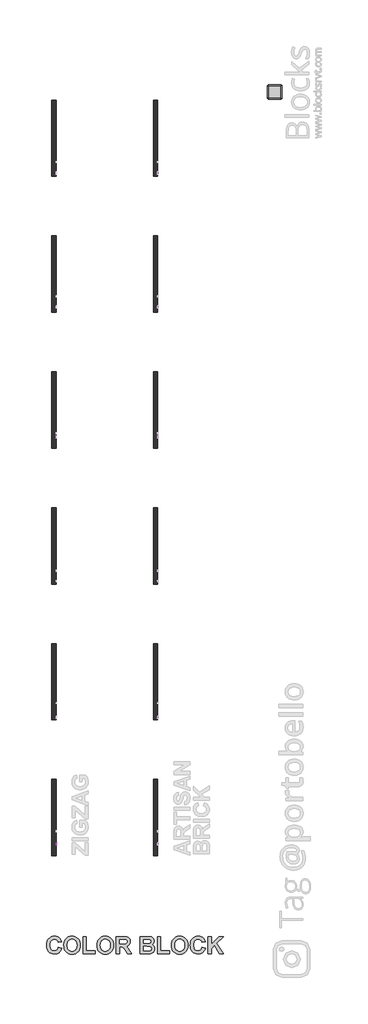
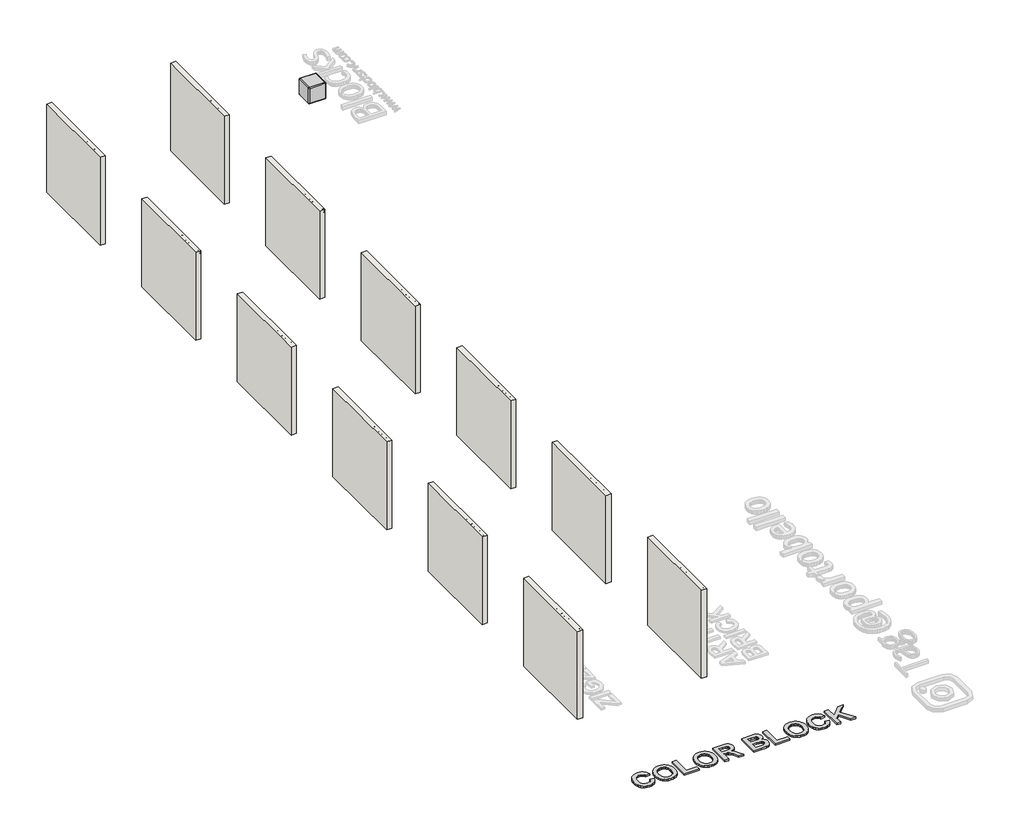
# One storey, part 1 of 9: 12 walls, 2 proxies, 1 furniture element.
"""IFC4 building model written with IfcOpenShell, lengths in millimetres."""

from ifc_helpers import new_model, si_unit, frame, origin, origin_with_axes, place, context, project, spatial, polyline, outline, extrude, transform, mapped, element, save
from components import branco_22256ad2

model = new_model("IFC4")

# Units and contexts
model_context = context("Model", 3, world=origin())
ifc_project = project(units=[si_unit("LENGTHUNIT", "METRE", prefix="MILLI")], contexts=[model_context])

# Site, building, storey
site = spatial("IfcSite", under=ifc_project)
building = spatial("IfcBuilding", under=site)
storey = spatial("IfcBuildingStorey", under=building, Name="PORTOBELLO - SHOWROOM", Elevation=0.0)

# Proxies
placement = place(None, origin())
element("IfcBuildingElementProxy", 1, Name="10mm Arial", ObjectType="10mm Arial", at=placement, inside=storey, context=model_context, shape_type="SweptSolid", body=[
    extrude(outline(polyline([(-5897.7049398, 2548.8308244), (-5857.6058023, 2649.2871345), (-5846.912699, 2649.2871345), (-5806.8135615, 2548.8308244), (-5820.0818388, 2548.8308244), (-5831.5842825, 2580.2234213), (-5872.9587442, 2580.2234213), (-5884.4366625, 2548.8308244), (-5897.7049398, 2548.8308244)]), holes=[polyline([(-5868.3479566, 2592.7804601), (-5836.1705447, 2592.7804601), (-5845.2204418, 2617.4776047), (-5852.2592506, 2636.7300958), (-5858.5132446, 2619.6358457), (-5868.3479566, 2592.7804601)])]), frame((-22384.5594677, 0.0, 0.0), z_axis=(1.0, 0.0, 0.0), x_axis=(0.0, 1.0, 0.0)), (0.0, 0.0, 1.0), 20.0),
    extrude(outline(polyline([(-5749.4484957, 2520.5774872), (-5749.4484957, 2558.8862656), (-5757.4192723, 2550.5721325), (-5768.3085794, 2547.2611945), (-5780.2463501, 2549.8762224), (-5790.4060245, 2557.7213059), (-5797.3589942, 2570.1219949), (-5799.6766508, 2586.4038388), (-5795.9978309, 2606.293992), (-5785.329253, 2619.6358457), (-5770.0008365, 2624.173057), (-5758.3267145, 2620.6536526), (-5749.4484957, 2610.0954393), (-5749.4484957, 2622.6034271), (-5736.891457, 2622.6034271), (-5736.891457, 2520.5774872), (-5749.4484957, 2520.5774872)]), holes=[polyline([(-5787.119612, 2585.7171258), (-5785.706332, 2574.3863603), (-5781.466492, 2566.2929564), (-5775.252352, 2561.4369141), (-5767.9161719, 2559.8182333), (-5760.8865601, 2561.3572063), (-5754.905412, 2565.9741254), (-5750.8127248, 2573.7364355), (-5749.4484957, 2584.7115816), (-5750.8863012, 2596.4439516), (-5755.1997176, 2604.8592522), (-5761.4506458, 2609.9268267), (-5768.7009868, 2611.6160182), (-5775.8164377, 2610.0433227), (-5781.7607976, 2605.3252361), (-5785.7799084, 2597.2778175), (-5787.119612, 2585.7171258)])]), frame((-22384.5594677, 0.0, 0.0), z_axis=(1.0, 0.0, 0.0), x_axis=(0.0, 1.0, 0.0)), (0.0, 0.0, 1.0), 20.0),
    extrude(outline(polyline([(-5670.9670034, 2548.8308244), (-5670.9670034, 2561.5104905), (-5680.8017154, 2550.8235185), (-5693.6285343, 2547.2611945), (-5705.4375464, 2549.7627921), (-5713.5800012, 2556.0413115), (-5717.3201348, 2565.2874123), (-5718.0558988, 2576.9615343), (-5718.0558988, 2622.6034271), (-5705.49886, 2622.6034271), (-5705.49886, 2582.8721717), (-5704.7385706, 2570.0698782), (-5699.7721636, 2562.5528228), (-5690.4156982, 2559.8182333), (-5679.9310614, 2562.6141365), (-5673.0026171, 2570.2292938), (-5670.9670034, 2584.2210723), (-5670.9670034, 2622.6034271), (-5658.4099647, 2622.6034271), (-5658.4099647, 2548.8308244), (-5670.9670034, 2548.8308244)])), frame((-22384.5594677, 0.0, 0.0), z_axis=(1.0, 0.0, 0.0), x_axis=(0.0, 1.0, 0.0)), (0.0, 0.0, 1.0), 20.0),
    extrude(outline(polyline([(-5594.055141, 2558.2486035), (-5606.232035, 2549.7382666), (-5619.6842533, 2547.2611945), (-5630.1780872, 2548.7511166), (-5637.9189375, 2553.2208829), (-5642.6922064, 2560.0083057), (-5644.283296, 2568.4511975), (-5641.8798003, 2578.3840113), (-5635.5644928, 2585.5944984), (-5626.7721131, 2589.7147768), (-5615.9073315, 2591.6032377), (-5594.1287174, 2595.9197198), (-5594.055141, 2598.7156229), (-5597.5132317, 2607.9862492), (-5611.3946457, 2611.6160182), (-5624.0988372, 2609.2002598), (-5630.1566274, 2600.6286093), (-5642.7136662, 2602.1982392), (-5637.2812754, 2614.4609723), (-5626.3429174, 2621.646934), (-5609.7759649, 2624.173057), (-5594.557913, 2621.9412396), (-5585.9617371, 2616.3371705), (-5582.1112389, 2607.8145709), (-5581.4981022, 2596.827162), (-5581.4981022, 2581.20444), (-5580.8604401, 2559.3890376), (-5578.3588425, 2548.8308244), (-5590.9158813, 2548.8308244), (-5594.055141, 2558.2486035)]), holes=[polyline([(-5594.055141, 2583.362681), (-5614.3131762, 2579.5121828), (-5625.1166441, 2577.4765691), (-5630.0094746, 2574.1656311), (-5631.7262573, 2569.3341142), (-5627.9861237, 2562.5405601), (-5617.0109775, 2559.8182333), (-5604.3067859, 2562.8226029), (-5596.1152801, 2570.0944037), (-5594.1287174, 2579.8064884), (-5594.055141, 2583.362681)])]), frame((-22384.5594677, 0.0, 0.0), z_axis=(1.0, 0.0, 0.0), x_axis=(0.0, 1.0, 0.0)), (0.0, 0.0, 1.0), 20.0),
    extrude(outline(polyline([(-5564.2321739, 2548.8308244), (-5564.2321739, 2622.6034271), (-5551.6751351, 2622.6034271), (-5551.6751351, 2610.4633213), (-5543.042171, 2620.4083979), (-5530.7549123, 2624.173057), (-5518.1733481, 2620.3348215), (-5511.2571666, 2609.5804045), (-5501.4592428, 2620.5248939), (-5489.086145, 2624.173057), (-5479.6469062, 2622.6555438), (-5472.6663453, 2618.1030041), (-5468.3529289, 2610.3928106), (-5466.9151234, 2599.402336), (-5466.9151234, 2548.8308244), (-5479.4721622, 2548.8308244), (-5479.4721622, 2594.0067334), (-5480.6371219, 2604.4913703), (-5484.8555021, 2609.6539809), (-5492.029201, 2611.6160182), (-5504.3777733, 2606.5882976), (-5508.0657903, 2600.0461295), (-5509.2951293, 2590.4750662), (-5509.2951293, 2548.8308244), (-5521.852168, 2548.8308244), (-5521.852168, 2595.404685), (-5524.7584358, 2607.5693163), (-5534.2865795, 2611.6160182), (-5543.5817312, 2608.9182169), (-5549.7621487, 2601.0210168), (-5551.6751351, 2586.0359568), (-5551.6751351, 2548.8308244), (-5564.2321739, 2548.8308244)])), frame((-22384.5594677, 0.0, 0.0), z_axis=(1.0, 0.0, 0.0), x_axis=(0.0, 1.0, 0.0)), (0.0, 0.0, 1.0), 20.0),
    extrude(outline(polyline([(-5400.9906699, 2558.2486035), (-5413.1675639, 2549.7382666), (-5426.6197822, 2547.2611945), (-5437.1136161, 2548.7511166), (-5444.8544665, 2553.2208829), (-5449.6277353, 2560.0083057), (-5451.218825, 2568.4511975), (-5448.8153293, 2578.3840113), (-5442.5000217, 2585.5944984), (-5433.707642, 2589.7147768), (-5422.8428604, 2591.6032377), (-5401.0642463, 2595.9197198), (-5400.9906699, 2598.7156229), (-5404.4487607, 2607.9862492), (-5418.3301746, 2611.6160182), (-5431.0343662, 2609.2002598), (-5437.0921564, 2600.6286093), (-5449.6491951, 2602.1982392), (-5444.2168043, 2614.4609723), (-5433.2784463, 2621.646934), (-5416.7114938, 2624.173057), (-5401.493442, 2621.9412396), (-5392.897266, 2616.3371705), (-5389.0467678, 2607.8145709), (-5388.4336311, 2596.827162), (-5388.4336311, 2581.20444), (-5387.795969, 2559.3890376), (-5385.2943714, 2548.8308244), (-5397.8514102, 2548.8308244), (-5400.9906699, 2558.2486035)]), holes=[polyline([(-5400.9906699, 2583.362681), (-5421.2487051, 2579.5121828), (-5432.052173, 2577.4765691), (-5436.9450036, 2574.1656311), (-5438.6617862, 2569.3341142), (-5434.9216526, 2562.5405601), (-5423.9465064, 2559.8182333), (-5411.2423148, 2562.8226029), (-5403.0508091, 2570.0944037), (-5401.0642463, 2579.8064884), (-5400.9906699, 2583.362681)])]), frame((-22384.5594677, 0.0, 0.0), z_axis=(1.0, 0.0, 0.0), x_axis=(0.0, 1.0, 0.0)), (0.0, 0.0, 1.0), 20.0),
    extrude(outline(polyline([(-5371.1677028, 2548.8308244), (-5371.1677028, 2622.6034271), (-5360.1802939, 2622.6034271), (-5360.1802939, 2611.6895946), (-5352.3811956, 2621.7450358), (-5344.5330464, 2624.173057), (-5331.9269567, 2620.2980333), (-5336.1208114, 2609.0408443), (-5344.9499793, 2611.6160182), (-5352.0501018, 2609.1389461), (-5356.5750503, 2602.2718155), (-5358.6106641, 2587.6055867), (-5358.6106641, 2548.8308244), (-5371.1677028, 2548.8308244)])), frame((-22384.5594677, 0.0, 0.0), z_axis=(1.0, 0.0, 0.0), x_axis=(0.0, 1.0, 0.0)), (0.0, 0.0, 1.0), 20.0),
    extrude(outline(polyline([(-22364.5594677, -5311.5217687), (-22364.5594677, -5324.0788074), (-22384.5594677, -5324.0788074), (-22384.5594677, -5311.5217687), (-22364.5594677, -5311.5217687)])), frame((0.0, 0.0, 2636.7300958), z_axis=(0.0, 0.0, 1.0), x_axis=(1.0, 0.0, 0.0)), (0.0, 0.0, 1.0), 12.5570388),
    extrude(outline(polyline([(-22364.5594677, -5311.5217687), (-22364.5594677, -5324.0788074), (-22384.5594677, -5324.0788074), (-22384.5594677, -5311.5217687), (-22364.5594677, -5311.5217687)])), frame((0.0, 0.0, 2548.8308244), z_axis=(0.0, 0.0, 1.0), x_axis=(1.0, 0.0, 0.0)), (0.0, 0.0, 1.0), 73.7726028),
    extrude(outline(polyline([(-5292.6862105, 2548.8308244), (-5292.6862105, 2622.6034271), (-5280.1291718, 2622.6034271), (-5280.1291718, 2612.3027313), (-5270.5274517, 2621.2054756), (-5257.4185899, 2624.173057), (-5245.5605269, 2621.781824), (-5237.467123, 2615.5033046), (-5233.702464, 2606.2694666), (-5233.0402764, 2594.1293607), (-5233.0402764, 2548.8308244), (-5245.5973151, 2548.8308244), (-5245.5973151, 2592.4371035), (-5247.0443177, 2603.5471398), (-5252.1578774, 2609.420989), (-5260.7785788, 2611.6160182), (-5274.4024754, 2606.6863995), (-5278.6974977, 2599.5433574), (-5280.1291718, 2587.9734687), (-5280.1291718, 2548.8308244), (-5292.6862105, 2548.8308244)])), frame((-22384.5594677, 0.0, 0.0), z_axis=(1.0, 0.0, 0.0), x_axis=(0.0, 1.0, 0.0)), (0.0, 0.0, 1.0), 20.0),
    extrude(outline(polyline([(-5164.1237159, 2570.8056422), (-5151.8119318, 2569.2360124), (-5156.2479756, 2559.9592547), (-5163.3266383, 2553.0246791), (-5172.8885045, 2548.7020657), (-5184.7741586, 2547.2611945), (-5199.5078325, 2549.7474637), (-5210.8447293, 2557.2062711), (-5218.0736105, 2569.1532389), (-5220.4832376, 2585.1039891), (-5218.0490851, 2601.5912339), (-5210.7466275, 2613.9214121), (-5199.5630148, 2621.6101458), (-5185.4853971, 2624.173057), (-5171.8461722, 2621.6162771), (-5160.947668, 2613.9459375), (-5153.8015603, 2601.6402848), (-5151.4195244, 2585.1775655), (-5151.4931008, 2581.7930512), (-5207.9261988, 2581.7930512), (-5205.7526294, 2572.3936662), (-5200.703449, 2565.483616), (-5193.4163198, 2561.234579), (-5184.5289039, 2559.8182333), (-5172.2171198, 2562.4424582), (-5164.1237159, 2570.8056422)]), holes=[polyline([(-5207.9261988, 2594.3500899), (-5163.9765631, 2594.3500899), (-5169.0042837, 2605.7299063), (-5176.3251354, 2610.1444902), (-5185.5344481, 2611.6160182), (-5200.9977546, 2606.9193914), (-5205.862994, 2601.4287526), (-5207.9261988, 2594.3500899)])]), frame((-22384.5594677, 0.0, 0.0), z_axis=(1.0, 0.0, 0.0), x_axis=(0.0, 1.0, 0.0)), (0.0, 0.0, 1.0), 20.0),
])
element("IfcBuildingElementProxy", 2, Name="600mm Arial", ObjectType="600mm Arial", at=placement, inside=storey, context=model_context, shape_type="SweptSolid", body=[
    extrude(outline(polyline([(-22303.0720311, -9176.5928792), (-22186.4709569, -9215.4599039), (-22202.5738233, -9261.5623062), (-22223.2503973, -9301.3355324), (-22248.5006787, -9334.7795824), (-22278.3246677, -9361.8944562), (-22312.5990069, -9382.8509562), (-22351.2003391, -9397.8198848), (-22394.1286643, -9406.801242), (-22441.3839825, -9409.7950277), (-22499.7699208, -9404.6804461), (-22552.7091618, -9389.3367012), (-22600.2017055, -9363.7637931), (-22642.2475519, -9327.9617217), (-22676.6547374, -9283.2874169), (-22701.2312985, -9231.0978084), (-22715.9772351, -9171.3928964), (-22720.8925473, -9104.1726807), (-22715.9345345, -9033.2897034), (-22701.0604961, -8970.7950195), (-22676.2704321, -8916.6886291), (-22660.1568905, -8892.7810439), (-22641.5643425, -8870.9705321), (-22598.7736081, -8834.6370756), (-22549.7296097, -8808.6846067), (-22494.4323473, -8793.1131253), (-22432.8818209, -8787.9226316), (-22379.060101, -8792.2021795), (-22330.5522322, -8805.0408231), (-22287.3582145, -8826.4385626), (-22249.4780478, -8856.3953978), (-22229.7693538, -8878.7989734), (-22212.6986074, -8905.6244321), (-22198.2658084, -8936.8717741), (-22186.4709569, -8972.5409992), (-22303.0720311, -8991.9745115), (-22310.4212769, -8970.6194727), (-22320.9303662, -8951.6461778), (-22334.5992991, -8935.0546268), (-22351.4280756, -8920.8448198), (-22370.8283764, -8909.4532516), (-22392.2118824, -8901.3164172), (-22415.5785934, -8896.4343165), (-22440.9285096, -8894.8069496), (-22475.5776651, -8897.7627793), (-22506.8012845, -8906.6302682), (-22534.5993677, -8921.4094164), (-22558.9719149, -8942.1002239), (-22578.7992216, -8969.4048782), (-22592.9615835, -9004.0255666), (-22601.4590006, -9045.9622892), (-22604.291473, -9095.2150461), (-22601.5444018, -9147.3477204), (-22593.3031882, -9191.3957499), (-22579.5678322, -9227.3591346), (-22560.3383337, -9255.2378746), (-22536.7059301, -9276.0947399), (-22509.7618586, -9290.9925009), (-22479.5061192, -9299.9311574), (-22445.938712, -9302.9107096), (-22420.9493786, -9301.0081612), (-22397.7534699, -9295.3005158), (-22376.3509859, -9285.7877736), (-22356.7419267, -9272.4699344), (-22339.353298, -9255.0623277), (-22324.6121059, -9233.2802829), (-22312.5183503, -9207.1238001), (-22303.0720311, -9176.5928792)])), origin_with_axes(), (0.0, 0.0, 1.0), 50.0),
    extrude(outline(polyline([(-22108.7369073, -9107.5128156), (-22107.0193948, -9062.7056645), (-22101.8668571, -9021.6561652), (-22093.2792942, -8984.3643177), (-22081.2567062, -8950.8301221), (-22057.0217499, -8906.5923121), (-22025.309446, -8867.0990121), (-21988.1694228, -8834.7794109), (-21947.6513086, -8812.0626977), (-21918.482062, -8801.5014188), (-21887.1493189, -8793.9576481), (-21853.6530793, -8789.4313857), (-21817.9933432, -8787.9226316), (-21754.8913621, -8793.1558259), (-21698.4316948, -8808.8554091), (-21648.6143413, -8835.0213809), (-21605.4393016, -8871.6537415), (-21586.757794, -8893.6077748), (-21570.5671541, -8917.6043195), (-21545.6584773, -8971.7249435), (-21530.7132713, -9034.0156134), (-21525.7315359, -9104.4763293), (-21530.6753152, -9174.4578497), (-21545.506653, -9236.3737034), (-21570.2255494, -9290.2238903), (-21586.292832, -9314.1243587), (-21604.8320043, -9336.0084104), (-21647.7223734, -9372.5411363), (-21697.2930124, -9398.6359405), (-21753.5439213, -9414.2928231), (-21816.4751001, -9419.5117839), (-21880.0705102, -9414.3165456), (-21936.7958701, -9398.7308307), (-21986.6511797, -9372.7546393), (-22029.636439, -9336.3879712), (-22064.2428939, -9290.9118442), (-22088.9617902, -9237.6072759), (-22103.7931281, -9176.4742664), (-22108.7369073, -9107.5128156)]), holes=[polyline([(-21992.1358331, -9103.2617348), (-21989.0376681, -9151.6842024), (-21979.7431733, -9193.862895), (-21964.2523486, -9229.7978127), (-21942.5651941, -9259.4889554), (-21916.1050626, -9282.7370537), (-21886.2953071, -9299.3428382), (-21853.1359277, -9309.3063089), (-21816.6269244, -9312.6274658), (-21780.1558771, -9309.3300315), (-21747.1103659, -9299.4377284), (-21717.4903909, -9282.9505567), (-21691.2959519, -9259.8685162), (-21669.8744899, -9230.191607), (-21654.5734456, -9193.9198292), (-21645.3928191, -9151.0531826), (-21642.3326102, -9101.5916673), (-21645.3121624, -9052.818106), (-21654.250819, -9010.6489024), (-21669.1485799, -8975.0840565), (-21690.0054453, -8946.1235683), (-21715.7966009, -8923.6725476), (-21745.4972326, -8907.6361043), (-21779.1073404, -8898.0142383), (-21816.6269244, -8894.8069496), (-21854.1844644, -8898.0521944), (-21887.9084405, -8907.7879286), (-21917.7988526, -8924.0141523), (-21943.8557007, -8946.7308655), (-21964.9782586, -8975.9855133), (-21980.0658, -9011.8255408), (-21989.1183248, -9054.250948), (-21992.1358331, -9103.2617348)])]), origin_with_axes(), (0.0, 0.0, 1.0), 50.0),
    extrude(outline(polyline([(-21428.563974, -9409.7950277), (-21428.563974, -8797.6393877), (-21311.9628997, -8797.6393877), (-21311.9628997, -9302.9107096), (-21001.0267017, -9302.9107096), (-21001.0267017, -9409.7950277), (-21428.563974, -9409.7950277)])), origin_with_axes(), (0.0, 0.0, 1.0), 50.0),
    extrude(outline(polyline([(-20933.0094083, -9107.5128156), (-20931.2918958, -9062.7056645), (-20926.1393581, -9021.6561652), (-20917.5517952, -8984.3643177), (-20905.5292072, -8950.8301221), (-20881.2942509, -8906.5923121), (-20849.581947, -8867.0990121), (-20812.4419238, -8834.7794109), (-20771.9238096, -8812.0626977), (-20742.754563, -8801.5014188), (-20711.4218199, -8793.9576481), (-20677.9255803, -8789.4313857), (-20642.2658442, -8787.9226316), (-20579.1638631, -8793.1558259), (-20522.7041958, -8808.8554091), (-20472.8868423, -8835.0213809), (-20429.7118026, -8871.6537415), (-20411.030295, -8893.6077748), (-20394.8396551, -8917.6043195), (-20369.9309783, -8971.7249435), (-20354.9857723, -9034.0156134), (-20350.0040369, -9104.4763293), (-20354.9478162, -9174.4578497), (-20369.779154, -9236.3737034), (-20394.4980504, -9290.2238903), (-20410.565333, -9314.1243587), (-20429.1045053, -9336.0084104), (-20471.9948744, -9372.5411363), (-20521.5655134, -9398.6359405), (-20577.8164223, -9414.2928231), (-20640.7476011, -9419.5117839), (-20704.3430112, -9414.3165456), (-20761.0683711, -9398.7308307), (-20810.9236807, -9372.7546393), (-20853.90894, -9336.3879712), (-20888.5153949, -9290.9118442), (-20913.2342912, -9237.6072759), (-20928.0656291, -9176.4742664), (-20933.0094083, -9107.5128156)]), holes=[polyline([(-20816.4083341, -9103.2617348), (-20813.3101691, -9151.6842024), (-20804.0156743, -9193.862895), (-20788.5248496, -9229.7978127), (-20766.8376951, -9259.4889554), (-20740.3775636, -9282.7370537), (-20710.5678081, -9299.3428382), (-20677.4084287, -9309.3063089), (-20640.8994254, -9312.6274658), (-20604.4283781, -9309.3300315), (-20571.3828669, -9299.4377284), (-20541.7628919, -9282.9505567), (-20515.568453, -9259.8685162), (-20494.1469909, -9230.191607), (-20478.8459466, -9193.9198292), (-20469.6653201, -9151.0531826), (-20466.6051112, -9101.5916673), (-20469.5846634, -9052.818106), (-20478.52332, -9010.6489024), (-20493.4210809, -8975.0840565), (-20514.2779463, -8946.1235683), (-20540.0691019, -8923.6725476), (-20569.7697336, -8907.6361043), (-20603.3798414, -8898.0142383), (-20640.8994254, -8894.8069496), (-20678.4569654, -8898.0521944), (-20712.1809415, -8907.7879286), (-20742.0713536, -8924.0141523), (-20768.1282017, -8946.7308655), (-20789.2507596, -8975.9855133), (-20804.338301, -9011.8255408), (-20813.3908258, -9054.250948), (-20816.4083341, -9103.2617348)])]), origin_with_axes(), (0.0, 0.0, 1.0), 50.0),
    extrude(outline(polyline([(-20252.836475, -9409.7950277), (-20252.836475, -8797.6393877), (-19995.342436, -8797.6393877), (-19911.4595017, -8801.7766003), (-19879.4815053, -8806.9481161), (-19854.1458226, -8814.1882381), (-19833.2320232, -8824.0757967), (-19814.5196763, -8837.1896219), (-19798.008782, -8853.5297139), (-19783.6993402, -8873.0960725), (-19772.1417142, -8895.0441751), (-19763.8862671, -8918.5294989), (-19758.9329988, -8943.5520439), (-19757.2819093, -8970.1118101), (-19759.6683978, -9003.2189999), (-19766.8278632, -9033.3086814), (-19778.7603055, -9060.3808547), (-19795.4657247, -9084.4355197), (-19816.9251428, -9104.8938462), (-19843.1195817, -9121.177004), (-19874.0490415, -9133.2849932), (-19909.7135221, -9141.2178137), (-19875.8946558, -9165.5856163), (-19848.5283229, -9192.2307837), (-19820.2130881, -9230.8321159), (-19783.5475159, -9291.068413), (-19708.6981284, -9409.7950277), (-19844.8845394, -9409.7950277), (-19933.5499396, -9269.9648332), (-19976.3833746, -9216.2759596), (-20003.1613882, -9186.9928448), (-20022.4810324, -9172.5885128), (-20042.9393589, -9163.535988), (-20070.0969333, -9158.7535221), (-20109.5143212, -9157.1593668), (-20136.2354007, -9157.1593668), (-20136.2354007, -9409.7950277), (-20252.836475, -9409.7950277)]), holes=[polyline([(-20136.2354007, -9050.2750487), (-20040.1306091, -9050.2750487), (-19964.2753854, -9048.510091), (-19923.4536226, -9043.215218), (-19902.6916475, -9033.6123301), (-19887.0157869, -9018.9233275), (-19877.1661844, -8999.5467493), (-19873.8829836, -8975.8811341), (-19878.2099766, -8949.6724617), (-19891.1909556, -8929.0433328), (-19912.066799, -8914.4871765), (-19940.0783852, -8906.4974219), (-20034.816758, -8904.5237058), (-20136.2354007, -8904.5237058), (-20136.2354007, -9050.2750487)])]), origin_with_axes(), (0.0, 0.0, 1.0), 50.0),
    extrude(outline(polyline([(-19407.4786865, -8797.6393877), (-19156.2094444, -8797.6393877), (-19091.1337472, -8799.1576309), (-19044.9981333, -8803.7123604), (-19010.2683211, -8813.1064899), (-18979.410029, -8829.1429332), (-18952.8977079, -8851.6888441), (-18931.2058089, -8880.6113762), (-18916.7445428, -8914.6769569), (-18911.9241208, -8952.6520138), (-18917.6744667, -8994.0241398), (-18934.9255046, -9031.9043065), (-18962.0451229, -9063.5217202), (-18997.4012104, -9086.1055871), (-18973.5837709, -9095.651541), (-18952.6889495, -9108.0442007), (-18934.7167462, -9123.2835664), (-18919.6671609, -9141.369638), (-18907.7774192, -9161.7425633), (-18899.2847465, -9183.8424902), (-18894.189143, -9207.6694187), (-18892.4906084, -9233.2233488), (-18897.3679646, -9274.234892), (-18912.000033, -9314.0697968), (-18935.0773289, -9349.3689502), (-18965.2903677, -9376.7732391), (-19002.999732, -9395.7323005), (-19048.5660047, -9405.6957712), (-19198.2647798, -9409.7950277), (-19407.4786865, -9409.7950277), (-19407.4786865, -8797.6393877)]), holes=[polyline([(-19290.8776122, -8904.5237058), (-19290.8776122, -9040.5582925), (-19201.9085633, -9040.5582925), (-19103.2227583, -9038.5845764), (-19072.1557077, -9031.4867897), (-19048.4900926, -9017.4809965), (-19033.5164195, -8997.2504065), (-19028.5251951, -8971.478229), (-19032.83321, -8946.8257557), (-19045.7572549, -8927.221441), (-19067.1455053, -8913.5003185), (-19096.846137, -8906.4974219), (-19212.8399141, -8904.5237058), (-19290.8776122, -8904.5237058)]), polyline([(-19290.8776122, -9147.4426106), (-19290.8776122, -9302.9107096), (-19167.5962681, -9302.9107096), (-19076.1980301, -9299.2669261), (-19049.2112581, -9291.1253471), (-19027.7660735, -9276.113718), (-19013.7602804, -9254.5356871), (-19009.0916827, -9226.6949033), (-19012.6975102, -9202.5548371), (-19023.5149927, -9182.3622031), (-19041.1266133, -9166.6104304), (-19065.1148551, -9155.7929479), (-19108.2329607, -9149.5301949), (-19183.2341725, -9147.4426106), (-19290.8776122, -9147.4426106)])]), origin_with_axes(), (0.0, 0.0, 1.0), 50.0),
    extrude(outline(polyline([(-18795.3230465, -9409.7950277), (-18795.3230465, -8797.6393877), (-18678.7219722, -8797.6393877), (-18678.7219722, -9302.9107096), (-18367.7857742, -9302.9107096), (-18367.7857742, -9409.7950277), (-18795.3230465, -9409.7950277)])), origin_with_axes(), (0.0, 0.0, 1.0), 50.0),
    extrude(outline(polyline([(-18299.7684808, -9107.5128156), (-18298.0509683, -9062.7056645), (-18292.8984306, -9021.6561652), (-18284.3108677, -8984.3643177), (-18272.2882797, -8950.8301221), (-18248.0533234, -8906.5923121), (-18216.3410195, -8867.0990121), (-18179.2009963, -8834.7794109), (-18138.6828821, -8812.0626977), (-18109.5136355, -8801.5014188), (-18078.1808924, -8793.9576481), (-18044.6846528, -8789.4313857), (-18009.0249167, -8787.9226316), (-17945.9229356, -8793.1558259), (-17889.4632683, -8808.8554091), (-17839.6459148, -8835.0213809), (-17796.470875, -8871.6537415), (-17777.7893675, -8893.6077748), (-17761.5987276, -8917.6043195), (-17736.6900508, -8971.7249435), (-17721.7448448, -9034.0156134), (-17716.7631094, -9104.4763293), (-17721.7068887, -9174.4578497), (-17736.5382265, -9236.3737034), (-17761.2571229, -9290.2238903), (-17777.3244055, -9314.1243587), (-17795.8635778, -9336.0084104), (-17838.7539469, -9372.5411363), (-17888.3245859, -9398.6359405), (-17944.5754948, -9414.2928231), (-18007.5066735, -9419.5117839), (-18071.1020837, -9414.3165456), (-18127.8274436, -9398.7308307), (-18177.6827532, -9372.7546393), (-18220.6680125, -9336.3879712), (-18255.2744674, -9290.9118442), (-18279.9933637, -9237.6072759), (-18294.8247016, -9176.4742664), (-18299.7684808, -9107.5128156)]), holes=[polyline([(-18183.1674065, -9103.2617348), (-18180.0692416, -9151.6842024), (-18170.7747468, -9193.862895), (-18155.2839221, -9229.7978127), (-18133.5967675, -9259.4889554), (-18107.1366361, -9282.7370537), (-18077.3268806, -9299.3428382), (-18044.1675012, -9309.3063089), (-18007.6584979, -9312.6274658), (-17971.1874506, -9309.3300315), (-17938.1419394, -9299.4377284), (-17908.5219644, -9282.9505567), (-17882.3275254, -9259.8685162), (-17860.9060634, -9230.191607), (-17845.6050191, -9193.9198292), (-17836.4243926, -9151.0531826), (-17833.3641837, -9101.5916673), (-17836.3437359, -9052.818106), (-17845.2823925, -9010.6489024), (-17860.1801534, -8975.0840565), (-17881.0370188, -8946.1235683), (-17906.8281744, -8923.6725476), (-17936.5288061, -8907.6361043), (-17970.1389139, -8898.0142383), (-18007.6584979, -8894.8069496), (-18045.2160379, -8898.0521944), (-18078.940014, -8907.7879286), (-18108.8304261, -8924.0141523), (-18134.8872742, -8946.7308655), (-18156.0098321, -8975.9855133), (-18171.0973735, -9011.8255408), (-18180.1498983, -9054.250948), (-18183.1674065, -9103.2617348)])]), origin_with_axes(), (0.0, 0.0, 1.0), 50.0),
    extrude(outline(polyline([(-17221.2085437, -9176.5928792), (-17104.6074694, -9215.4599039), (-17120.7103359, -9261.5623062), (-17141.3869099, -9301.3355324), (-17166.6371913, -9334.7795824), (-17196.4611803, -9361.8944562), (-17230.7355195, -9382.8509562), (-17269.3368517, -9397.8198848), (-17312.2651769, -9406.801242), (-17359.5204951, -9409.7950277), (-17417.9064334, -9404.6804461), (-17470.8456744, -9389.3367012), (-17518.3382181, -9363.7637931), (-17560.3840645, -9327.9617217), (-17594.79125, -9283.2874169), (-17619.367811, -9231.0978084), (-17634.1137477, -9171.3928964), (-17639.0290599, -9104.1726807), (-17634.0710471, -9033.2897034), (-17619.1970087, -8970.7950195), (-17594.4069447, -8916.6886291), (-17578.2934031, -8892.7810439), (-17559.7008551, -8870.9705321), (-17516.9101207, -8834.6370756), (-17467.8661223, -8808.6846067), (-17412.5688598, -8793.1131253), (-17351.0183335, -8787.9226316), (-17297.1966136, -8792.2021795), (-17248.6887448, -8805.0408231), (-17205.4947271, -8826.4385626), (-17167.6145604, -8856.3953978), (-17147.9058664, -8878.7989734), (-17130.8351199, -8905.6244321), (-17116.402321, -8936.8717741), (-17104.6074694, -8972.5409992), (-17221.2085437, -8991.9745115), (-17228.5577895, -8970.6194727), (-17239.0668788, -8951.6461778), (-17252.7358117, -8935.0546268), (-17269.5645882, -8920.8448198), (-17288.964889, -8909.4532516), (-17310.348395, -8901.3164172), (-17333.715106, -8896.4343165), (-17359.0650222, -8894.8069496), (-17393.7141777, -8897.7627793), (-17424.9377971, -8906.6302682), (-17452.7358803, -8921.4094164), (-17477.1084275, -8942.1002239), (-17496.9357342, -8969.4048782), (-17511.0980961, -9004.0255666), (-17519.5955132, -9045.9622892), (-17522.4279856, -9095.2150461), (-17519.6809144, -9147.3477204), (-17511.4397008, -9191.3957499), (-17497.7043447, -9227.3591346), (-17478.4748463, -9255.2378746), (-17454.8424427, -9276.0947399), (-17427.8983712, -9290.9925009), (-17397.6426318, -9299.9311574), (-17364.0752246, -9302.9107096), (-17339.0858912, -9301.0081612), (-17315.8899825, -9295.3005158), (-17294.4874985, -9285.7877736), (-17274.8784392, -9272.4699344), (-17257.4898106, -9255.0623277), (-17242.7486185, -9233.2802829), (-17230.6548629, -9207.1238001), (-17221.2085437, -9176.5928792)])), origin_with_axes(), (0.0, 0.0, 1.0), 50.0),
    extrude(outline(polyline([(-17007.4399075, -9409.7950277), (-17007.4399075, -8797.6393877), (-16890.8388333, -8797.6393877), (-16890.8388333, -9076.6924796), (-16628.1827675, -8797.6393877), (-16468.159939, -8797.6393877), (-16699.8438444, -9031.4488336), (-16458.4431828, -9409.7950277), (-16594.7814181, -9409.7950277), (-16775.6041778, -9108.1201129), (-16890.8388333, -9224.5693628), (-16890.8388333, -9409.7950277), (-17007.4399075, -9409.7950277)])), origin_with_axes(), (0.0, 0.0, 1.0), 50.0),
])

# Furniture
branco_shape = branco_22256ad2(model_context)
element("IfcFurniture", 3, ObjectType="Blks_Mob_Blocks Revit_Cubo : Branco", at=placement, inside=storey, context=model_context, shape_type="MappedRepresentation", body=[
    mapped(branco_shape, transform((-14649.3972023, 21036.1800177, 0.0), x_axis=(1.0, 0.0, 0.0), y_axis=(0.0, 1.0, 0.0), z_axis=(0.0, 0.0, 1.0))),
])

# Walls
element("IfcWall", 4, ObjectType="PORTOBELLO - COLOR BLOCK - ZIGZAG - AQUAMARINE - 30X90", at=placement, inside=storey, context=model_context, shape_type="SweptSolid", body=[
    extrude(outline(polyline([(-22534.5594677, -5947.2546691), (-22534.5594677, -3247.2546691), (-22384.5594677, -3247.2546691), (-22384.5594677, -5947.2546691), (-22534.5594677, -5947.2546691)])), origin_with_axes(), (0.0, 0.0, 1.0), 2700.0),
])
element("IfcWall", 5, ObjectType="PORTOBELLO - COLOR BLOCK - ARTISAN BRICK - AQUAMARINE - 6X40", at=placement, inside=storey, context=model_context, shape_type="SweptSolid", body=[
    extrude(outline(polyline([(-18934.5594677, -5947.2546691), (-18934.5594677, -3247.2546691), (-18784.5594677, -3247.2546691), (-18784.5594677, -5947.2546691), (-18934.5594677, -5947.2546691)])), origin_with_axes(), (0.0, 0.0, 1.0), 2700.0),
])
element("IfcWall", 6, ObjectType="PORTOBELLO - COLOR BLOCK - ZIGZAG - ARDESIA - 30X90", at=placement, inside=storey, context=model_context, shape_type="SweptSolid", body=[
    extrude(outline(polyline([(-22534.5594677, -1147.2546691), (-22534.5594677, 1552.7453309), (-22384.5594677, 1552.7453309), (-22384.5594677, -1147.2546691), (-22534.5594677, -1147.2546691)])), origin_with_axes(), (0.0, 0.0, 1.0), 2700.0),
])
element("IfcWall", 7, ObjectType="PORTOBELLO - COLOR BLOCK - ARTISAN BRICK - ARDESIA - 6X40", at=placement, inside=storey, context=model_context, shape_type="SweptSolid", body=[
    extrude(outline(polyline([(-18934.5594677, -1147.2546691), (-18934.5594677, 1552.7453309), (-18784.5594677, 1552.7453309), (-18784.5594677, -1147.2546691), (-18934.5594677, -1147.2546691)])), origin_with_axes(), (0.0, 0.0, 1.0), 2700.0),
])
element("IfcWall", 8, ObjectType="PORTOBELLO - COLOR BLOCK - ZIGZAG - BLUSH - 30X90", at=placement, inside=storey, context=model_context, shape_type="SweptSolid", body=[
    extrude(outline(polyline([(-22534.5594677, 3652.7453309), (-22534.5594677, 6352.7453309), (-22384.5594677, 6352.7453309), (-22384.5594677, 3652.7453309), (-22534.5594677, 3652.7453309)])), origin_with_axes(), (0.0, 0.0, 1.0), 2700.0),
])
element("IfcWall", 9, ObjectType="PORTOBELLO - COLOR BLOCK - ARTISAN BRICK - BLUSH - 6X40", at=placement, inside=storey, context=model_context, shape_type="SweptSolid", body=[
    extrude(outline(polyline([(-18934.5594677, 3652.7453309), (-18934.5594677, 6352.7453309), (-18784.5594677, 6352.7453309), (-18784.5594677, 3652.7453309), (-18934.5594677, 3652.7453309)])), origin_with_axes(), (0.0, 0.0, 1.0), 2700.0),
])
element("IfcWall", 10, ObjectType="PORTOBELLO - COLOR BLOCK - ZIGZAG - DENIM - 30X90", at=placement, inside=storey, context=model_context, shape_type="SweptSolid", body=[
    extrude(outline(polyline([(-22534.5594677, 8452.7453309), (-22534.5594677, 11152.7453309), (-22384.5594677, 11152.7453309), (-22384.5594677, 8452.7453309), (-22534.5594677, 8452.7453309)])), origin_with_axes(), (0.0, 0.0, 1.0), 2700.0),
])
element("IfcWall", 11, ObjectType="PORTOBELLO - COLOR BLOCK - ARTISAN BRICK - DENIM - 6X40", at=placement, inside=storey, context=model_context, shape_type="SweptSolid", body=[
    extrude(outline(polyline([(-18934.5594677, 8452.7453309), (-18934.5594677, 11152.7453309), (-18784.5594677, 11152.7453309), (-18784.5594677, 8452.7453309), (-18934.5594677, 8452.7453309)])), origin_with_axes(), (0.0, 0.0, 1.0), 2700.0),
])
element("IfcWall", 12, ObjectType="PORTOBELLO - COLOR BLOCK - ZIGZAG - SMOKE - 30X90", at=placement, inside=storey, context=model_context, shape_type="SweptSolid", body=[
    extrude(outline(polyline([(-22534.5594677, 13252.7453309), (-22534.5594677, 15952.7453309), (-22384.5594677, 15952.7453309), (-22384.5594677, 13252.7453309), (-22534.5594677, 13252.7453309)])), origin_with_axes(), (0.0, 0.0, 1.0), 2700.0),
])
element("IfcWall", 13, ObjectType="PORTOBELLO - COLOR BLOCK - ARTISAN BRICK - SMOKE - 6X40", at=placement, inside=storey, context=model_context, shape_type="SweptSolid", body=[
    extrude(outline(polyline([(-18934.5594677, 13252.7453309), (-18934.5594677, 15952.7453309), (-18784.5594677, 15952.7453309), (-18784.5594677, 13252.7453309), (-18934.5594677, 13252.7453309)])), origin_with_axes(), (0.0, 0.0, 1.0), 2700.0),
])
element("IfcWall", 14, ObjectType="PORTOBELLO - COLOR BLOCK - ZIGZAG - WHITE - 30X90", at=placement, inside=storey, context=model_context, shape_type="SweptSolid", body=[
    extrude(outline(polyline([(-22534.5594677, 18052.7453309), (-22534.5594677, 20752.7453309), (-22384.5594677, 20752.7453309), (-22384.5594677, 18052.7453309), (-22534.5594677, 18052.7453309)])), origin_with_axes(), (0.0, 0.0, 1.0), 2700.0),
])
element("IfcWall", 15, ObjectType="PORTOBELLO - COLOR BLOCK - ARTISAN BRICK - WHITE - 6X40", at=placement, inside=storey, context=model_context, shape_type="SweptSolid", body=[
    extrude(outline(polyline([(-18934.5594677, 18052.7453309), (-18934.5594677, 20752.7453309), (-18784.5594677, 20752.7453309), (-18784.5594677, 18052.7453309), (-18934.5594677, 18052.7453309)])), origin_with_axes(), (0.0, 0.0, 1.0), 2700.0),
])

save(model, "model.ifc")
